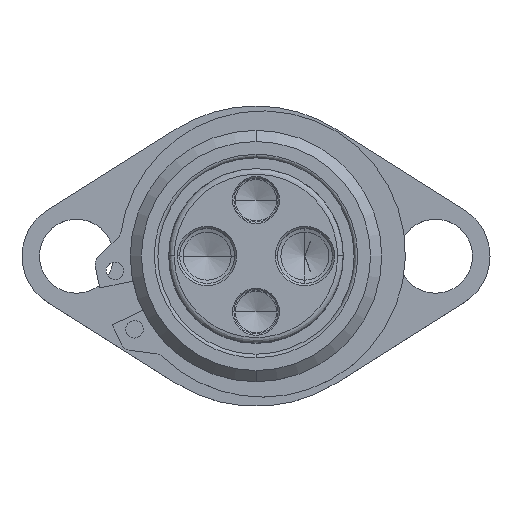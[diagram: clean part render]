
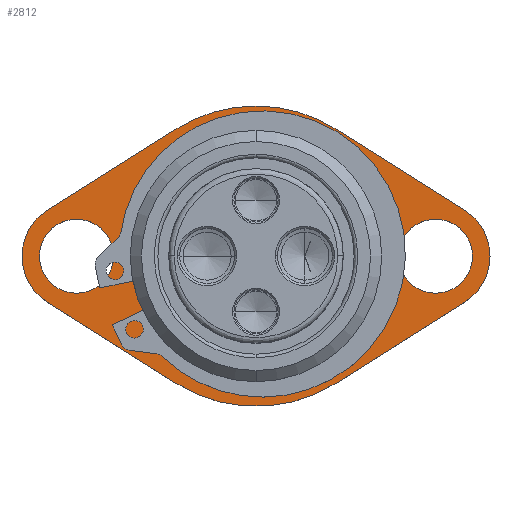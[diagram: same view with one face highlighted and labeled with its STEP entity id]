
A CAD part, top view. The second image highlights one B-rep face of the part: STEP entity #2812.
In plain terms, the highlighted planar face has unit normal (0, 0, 1) as drawn and (0, 1, 0) by its records, which use the part's own axes.
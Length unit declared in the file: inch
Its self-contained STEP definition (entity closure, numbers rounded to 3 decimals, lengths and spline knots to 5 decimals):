
#36 = DIRECTION ( 'NONE',  ( -0.846, 0., 0.533 ) ) ;
#48 = CIRCLE ( 'NONE', #2016, 0.265 ) ;
#118 = EDGE_CURVE ( 'NONE', #3774, #2087, #3206, .T. ) ;
#134 = VERTEX_POINT ( 'NONE', #3313 ) ;
#167 = DIRECTION ( 'NONE',  ( 0., 0., -1. ) ) ;
#223 = AXIS2_PLACEMENT_3D ( 'NONE', #3794, #3825, #1848 ) ;
#238 = VERTEX_POINT ( 'NONE', #1689 ) ;
#293 = AXIS2_PLACEMENT_3D ( 'NONE', #1890, #5062, #2292 ) ;
#298 = ORIENTED_EDGE ( 'NONE', *, *, #2571, .F. ) ;
#318 = CARTESIAN_POINT ( 'NONE',  ( -1.285, 0.25, 0. ) ) ;
#378 = CARTESIAN_POINT ( 'NONE',  ( 0., 0.25, -0.9 ) ) ;
#380 = DIRECTION ( 'NONE',  ( 0., 0., -1. ) ) ;
#402 = LINE ( 'NONE', #4602, #1141 ) ;
#433 = EDGE_LOOP ( 'NONE', ( #3132, #2408 ) ) ;
#470 = DIRECTION ( 'NONE',  ( 0., 0., -1. ) ) ;
#535 = EDGE_CURVE ( 'NONE', #2851, #4487, #5065, .T. ) ;
#537 = VERTEX_POINT ( 'NONE', #378 ) ;
#602 = EDGE_CURVE ( 'NONE', #4487, #2851, #2822, .T. ) ;
#611 = CARTESIAN_POINT ( 'NONE',  ( 0., 0.25, 0.9 ) ) ;
#631 = CARTESIAN_POINT ( 'NONE',  ( 0.57305, 0.25, -0.90952 ) ) ;
#640 = CARTESIAN_POINT ( 'NONE',  ( -1.285, 0.25, 0.265 ) ) ;
#661 = DIRECTION ( 'NONE',  ( 0., -1., 0. ) ) ;
#702 = VERTEX_POINT ( 'NONE', #2895 ) ;
#709 = DIRECTION ( 'NONE',  ( 0., 1., 0. ) ) ;
#716 = CIRCLE ( 'NONE', #4047, 1.075 ) ;
#750 = CARTESIAN_POINT ( 'NONE',  ( 1.285, 0.25, 0. ) ) ;
#762 = CARTESIAN_POINT ( 'NONE',  ( 0.57305, 0.25, -0.90952 ) ) ;
#790 = ORIENTED_EDGE ( 'NONE', *, *, #535, .T. ) ;
#798 = AXIS2_PLACEMENT_3D ( 'NONE', #2162, #1322, #167 ) ;
#915 = VERTEX_POINT ( 'NONE', #2280 ) ;
#1138 = ORIENTED_EDGE ( 'NONE', *, *, #4215, .T. ) ;
#1141 = VECTOR ( 'NONE', #3745, 39.37008 ) ;
#1146 = DIRECTION ( 'NONE',  ( 0., -1., 0. ) ) ;
#1158 = CIRCLE ( 'NONE', #2720, 0.9 ) ;
#1182 = DIRECTION ( 'NONE',  ( 0., -1., 0. ) ) ;
#1185 = EDGE_CURVE ( 'NONE', #3694, #1773, #3889, .T. ) ;
#1206 = CARTESIAN_POINT ( 'NONE',  ( 1.285, 0.25, -0.265 ) ) ;
#1307 = CARTESIAN_POINT ( 'NONE',  ( -1.4929, 0.25, 0.32997 ) ) ;
#1322 = DIRECTION ( 'NONE',  ( 0., -1., 0. ) ) ;
#1377 = CARTESIAN_POINT ( 'NONE',  ( 0., 0.25, -1.075 ) ) ;
#1472 = EDGE_CURVE ( 'NONE', #2087, #4270, #4747, .T. ) ;
#1507 = EDGE_CURVE ( 'NONE', #238, #134, #1903, .T. ) ;
#1568 = DIRECTION ( 'NONE',  ( 0., -1., 0. ) ) ;
#1597 = DIRECTION ( 'NONE',  ( 0., 0., 1. ) ) ;
#1614 = CARTESIAN_POINT ( 'NONE',  ( 0., 0.25, 0. ) ) ;
#1649 = CIRCLE ( 'NONE', #5142, 0.9 ) ;
#1651 = DIRECTION ( 'NONE',  ( 0., -1., 0. ) ) ;
#1667 = EDGE_CURVE ( 'NONE', #702, #134, #716, .T. ) ;
#1689 = CARTESIAN_POINT ( 'NONE',  ( -1.4929, 0.25, 0.32997 ) ) ;
#1708 = FACE_OUTER_BOUND ( 'NONE', #3981, .T. ) ;
#1763 = ORIENTED_EDGE ( 'NONE', *, *, #2020, .T. ) ;
#1773 = VERTEX_POINT ( 'NONE', #640 ) ;
#1803 = VERTEX_POINT ( 'NONE', #3054 ) ;
#1848 = DIRECTION ( 'NONE',  ( 0., 0., -1. ) ) ;
#1890 = CARTESIAN_POINT ( 'NONE',  ( 1.285, 0.25, 0. ) ) ;
#1903 = LINE ( 'NONE', #1307, #3329 ) ;
#1984 = CARTESIAN_POINT ( 'NONE',  ( -1.4929, 0.25, -0.32997 ) ) ;
#2016 = AXIS2_PLACEMENT_3D ( 'NONE', #2753, #1182, #380 ) ;
#2020 = EDGE_CURVE ( 'NONE', #2134, #537, #1649, .T. ) ;
#2087 = VERTEX_POINT ( 'NONE', #1377 ) ;
#2123 = EDGE_CURVE ( 'NONE', #702, #915, #402, .T. ) ;
#2134 = VERTEX_POINT ( 'NONE', #611 ) ;
#2162 = CARTESIAN_POINT ( 'NONE',  ( 0., 0.25, 0. ) ) ;
#2280 = CARTESIAN_POINT ( 'NONE',  ( 1.4929, 0.25, 0.32997 ) ) ;
#2292 = DIRECTION ( 'NONE',  ( 0., 0., -1. ) ) ;
#2364 = VERTEX_POINT ( 'NONE', #4467 ) ;
#2382 = VECTOR ( 'NONE', #2602, 39.37008 ) ;
#2408 = ORIENTED_EDGE ( 'NONE', *, *, #4337, .T. ) ;
#2451 = DIRECTION ( 'NONE',  ( 0., 0., -1. ) ) ;
#2487 = DIRECTION ( 'NONE',  ( 0., -1., 0. ) ) ;
#2559 = EDGE_CURVE ( 'NONE', #238, #1803, #3001, .T. ) ;
#2571 = EDGE_CURVE ( 'NONE', #2364, #915, #3631, .T. ) ;
#2602 = DIRECTION ( 'NONE',  ( -0.846, 0., -0.533 ) ) ;
#2720 = AXIS2_PLACEMENT_3D ( 'NONE', #4013, #1651, #4421 ) ;
#2752 = LINE ( 'NONE', #631, #2382 ) ;
#2753 = CARTESIAN_POINT ( 'NONE',  ( -1.285, 0.25, 0. ) ) ;
#2798 = DIRECTION ( 'NONE',  ( 0., 0., -1. ) ) ;
#2812 = ADVANCED_FACE ( 'NONE', ( #4110, #1708, #3063, #3188 ), #4682, .T. ) ;
#2817 = CARTESIAN_POINT ( 'NONE',  ( -0.57305, 0.25, -0.90952 ) ) ;
#2822 = CIRCLE ( 'NONE', #3654, 0.265 ) ;
#2832 = ORIENTED_EDGE ( 'NONE', *, *, #118, .F. ) ;
#2851 = VERTEX_POINT ( 'NONE', #1206 ) ;
#2852 = CARTESIAN_POINT ( 'NONE',  ( 1.285, 0.25, 0. ) ) ;
#2895 = CARTESIAN_POINT ( 'NONE',  ( 0.57305, 0.25, 0.90952 ) ) ;
#2898 = ORIENTED_EDGE ( 'NONE', *, *, #2559, .F. ) ;
#2957 = EDGE_LOOP ( 'NONE', ( #790, #4798 ) ) ;
#3001 = CIRCLE ( 'NONE', #223, 0.39 ) ;
#3039 = DIRECTION ( 'NONE',  ( 0., 0., -1. ) ) ;
#3054 = CARTESIAN_POINT ( 'NONE',  ( -1.4929, 0.25, -0.32997 ) ) ;
#3063 = FACE_BOUND ( 'NONE', #2957, .T. ) ;
#3084 = VECTOR ( 'NONE', #36, 39.37008 ) ;
#3132 = ORIENTED_EDGE ( 'NONE', *, *, #1185, .T. ) ;
#3188 = FACE_BOUND ( 'NONE', #5077, .T. ) ;
#3206 = CIRCLE ( 'NONE', #3917, 1.075 ) ;
#3277 = EDGE_CURVE ( 'NONE', #2364, #4270, #2752, .T. ) ;
#3279 = CARTESIAN_POINT ( 'NONE',  ( 1.285, 0.25, 0.265 ) ) ;
#3313 = CARTESIAN_POINT ( 'NONE',  ( -0.57305, 0.25, 0.90952 ) ) ;
#3329 = VECTOR ( 'NONE', #3673, 39.37008 ) ;
#3519 = DIRECTION ( 'NONE',  ( 0., 0., -1. ) ) ;
#3631 = CIRCLE ( 'NONE', #293, 0.39 ) ;
#3654 = AXIS2_PLACEMENT_3D ( 'NONE', #2852, #4411, #470 ) ;
#3673 = DIRECTION ( 'NONE',  ( 0.846, 0., 0.533 ) ) ;
#3694 = VERTEX_POINT ( 'NONE', #4820 ) ;
#3725 = ORIENTED_EDGE ( 'NONE', *, *, #1472, .F. ) ;
#3745 = DIRECTION ( 'NONE',  ( 0.846, 0., -0.533 ) ) ;
#3774 = VERTEX_POINT ( 'NONE', #2817 ) ;
#3788 = AXIS2_PLACEMENT_3D ( 'NONE', #750, #1146, #4345 ) ;
#3794 = CARTESIAN_POINT ( 'NONE',  ( -1.285, 0.25, 0. ) ) ;
#3825 = DIRECTION ( 'NONE',  ( 0., -1., 0. ) ) ;
#3850 = AXIS2_PLACEMENT_3D ( 'NONE', #318, #709, #1597 ) ;
#3874 = CARTESIAN_POINT ( 'NONE',  ( 0., 0.25, 0. ) ) ;
#3889 = CIRCLE ( 'NONE', #5103, 0.265 ) ;
#3917 = AXIS2_PLACEMENT_3D ( 'NONE', #1614, #3989, #2798 ) ;
#3981 = EDGE_LOOP ( 'NONE', ( #2832, #5087, #2898, #4775, #4115, #4618, #298, #4903, #3725 ) ) ;
#3989 = DIRECTION ( 'NONE',  ( 0., -1., 0. ) ) ;
#4013 = CARTESIAN_POINT ( 'NONE',  ( 0., 0.25, 0. ) ) ;
#4016 = CARTESIAN_POINT ( 'NONE',  ( -1.285, 0.25, 0. ) ) ;
#4047 = AXIS2_PLACEMENT_3D ( 'NONE', #4143, #661, #3039 ) ;
#4110 = FACE_BOUND ( 'NONE', #433, .T. ) ;
#4115 = ORIENTED_EDGE ( 'NONE', *, *, #1667, .F. ) ;
#4143 = CARTESIAN_POINT ( 'NONE',  ( 0., 0.25, 0. ) ) ;
#4215 = EDGE_CURVE ( 'NONE', #537, #2134, #1158, .T. ) ;
#4270 = VERTEX_POINT ( 'NONE', #762 ) ;
#4337 = EDGE_CURVE ( 'NONE', #1773, #3694, #48, .T. ) ;
#4345 = DIRECTION ( 'NONE',  ( 0., 0., -1. ) ) ;
#4411 = DIRECTION ( 'NONE',  ( 0., -1., 0. ) ) ;
#4421 = DIRECTION ( 'NONE',  ( 0., 0., -1. ) ) ;
#4467 = CARTESIAN_POINT ( 'NONE',  ( 1.4929, 0.25, -0.32997 ) ) ;
#4487 = VERTEX_POINT ( 'NONE', #3279 ) ;
#4602 = CARTESIAN_POINT ( 'NONE',  ( 0.57305, 0.25, 0.90952 ) ) ;
#4618 = ORIENTED_EDGE ( 'NONE', *, *, #2123, .T. ) ;
#4682 = PLANE ( 'NONE',  #3850 ) ;
#4747 = CIRCLE ( 'NONE', #798, 1.075 ) ;
#4756 = LINE ( 'NONE', #1984, #3084 ) ;
#4775 = ORIENTED_EDGE ( 'NONE', *, *, #1507, .T. ) ;
#4794 = EDGE_CURVE ( 'NONE', #3774, #1803, #4756, .T. ) ;
#4798 = ORIENTED_EDGE ( 'NONE', *, *, #602, .T. ) ;
#4820 = CARTESIAN_POINT ( 'NONE',  ( -1.285, 0.25, -0.265 ) ) ;
#4903 = ORIENTED_EDGE ( 'NONE', *, *, #3277, .T. ) ;
#5062 = DIRECTION ( 'NONE',  ( 0., -1., 0. ) ) ;
#5065 = CIRCLE ( 'NONE', #3788, 0.265 ) ;
#5077 = EDGE_LOOP ( 'NONE', ( #1138, #1763 ) ) ;
#5087 = ORIENTED_EDGE ( 'NONE', *, *, #4794, .T. ) ;
#5103 = AXIS2_PLACEMENT_3D ( 'NONE', #4016, #2487, #2451 ) ;
#5142 = AXIS2_PLACEMENT_3D ( 'NONE', #3874, #1568, #3519 ) ;
